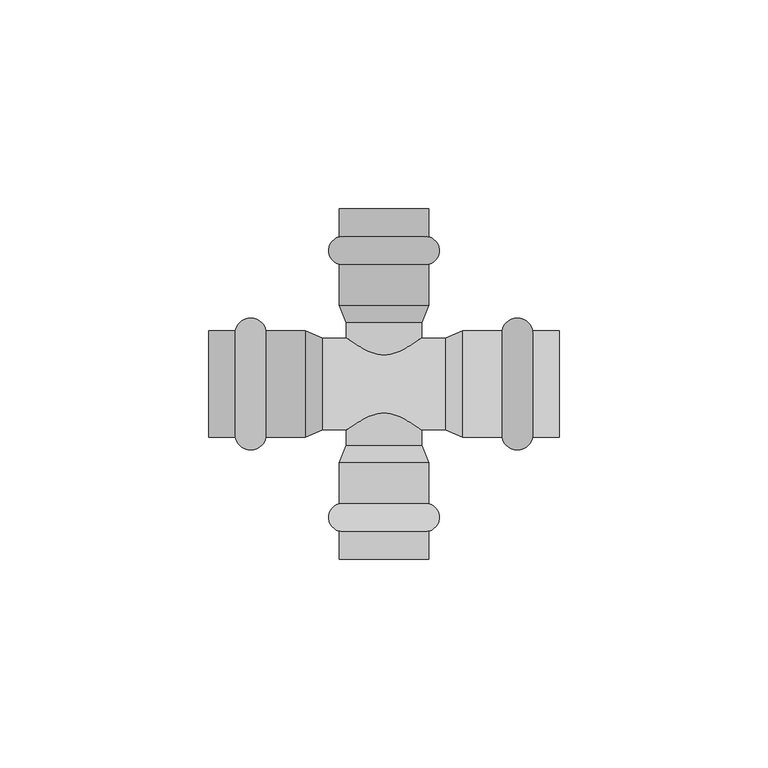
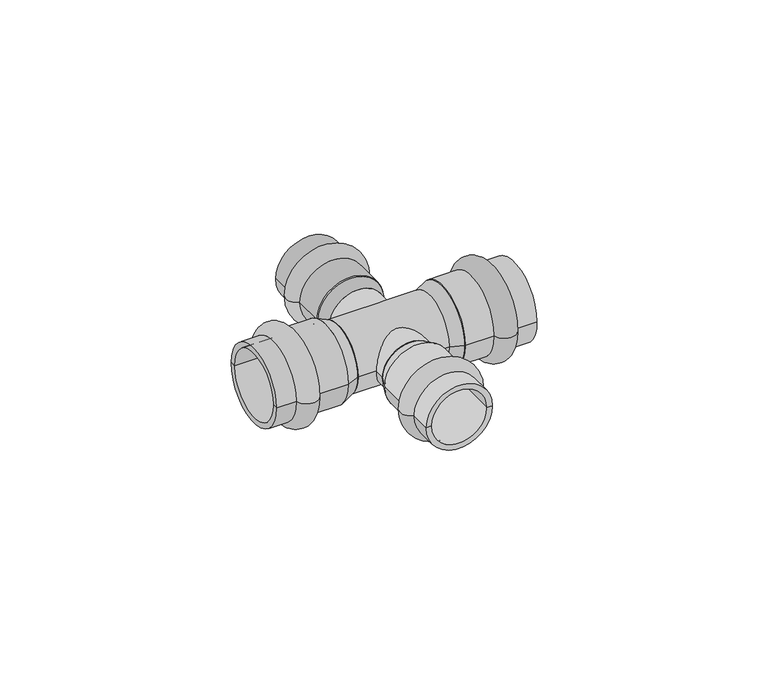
"""IFC4 building model written with IfcOpenShell, lengths in millimetres: pipe fitting geometry, VALTEC_VTi.941.I_Крестовина нержавеющая сталь : VTi.941.I."""

from ifc_helpers import new_model, si_unit, point, frame, origin, origin_2d, place, context, project, spatial, polyline, circle_curve, ellipse_curve, trimmed, segment, composite_curve, outline, extrude, source, transform, mapped, element, save
from ifc_brep_helpers import plane_surface, cylinder_surface, revolved_surface, advanced_brep


def pipe_fitting_897d8b49(model_context):
    return source(origin(), model_context, "Body", "SolidModel", [
        advanced_brep(
        [(10.75, -35.2287193, 0.0), (-10.75, -35.2287193, 0.0), (-10.75, -28.6712807, 0.0), (10.75, -28.6712807, 0.0), (10.75, -42.0, 0.0), (-10.75, -42.0, 0.0), (9.0, -42.0, 0.0), (-9.0, -42.0, 0.0), (9.0, -18.9, 0.0), (-9.0, -18.9, 0.0), (10.75, -18.9, 0.0), (-10.75, -18.9, 0.0)],
        [
            (0, 1, circle_curve(frame((0.0, -35.2287193, 0.0), z_axis=(0.0, 1.0, 0.0), x_axis=(-1.0, 0.0, 0.0)), 10.75)),
            (1, 2, circle_curve(frame((-9.85, -31.95, 0.0), z_axis=(0.0, 0.0, -1.0), x_axis=(0.0, 1.0, 0.0)), 3.4)),
            (2, 3, circle_curve(frame((0.0, -28.6712807, 0.0), z_axis=(0.0, -1.0, 0.0), x_axis=(-1.0, 0.0, 0.0)), 10.75)),
            (3, 0, circle_curve(frame((9.85, -31.95, 0.0), z_axis=(0.0, 0.0, -1.0), x_axis=(0.0, 1.0, 0.0)), 3.4)),
            (1, 0, circle_curve(frame((0.0, -35.2287193, 0.0), z_axis=(0.0, 1.0, 0.0), x_axis=(-1.0, 0.0, 0.0)), 10.75)),
            (3, 2, circle_curve(frame((0.0, -28.6712807, 0.0), z_axis=(0.0, -1.0, 0.0), x_axis=(-1.0, 0.0, 0.0)), 10.75)),
            (4, 5, circle_curve(frame((0.0, -42.0, 0.0), z_axis=(0.0, 1.0, 0.0), x_axis=(-1.0, 0.0, 0.0)), 10.75)),
            (5, 1),
            (0, 4),
            (5, 4, circle_curve(frame((0.0, -42.0, 0.0), z_axis=(0.0, 1.0, 0.0), x_axis=(-1.0, 0.0, 0.0)), 10.75)),
            (6, 7, circle_curve(frame((0.0, -42.0, 0.0), z_axis=(0.0, 1.0, 0.0), x_axis=(-1.0, 0.0, 0.0)), 9.0)),
            (7, 5),
            (4, 6),
            (7, 6, circle_curve(frame((0.0, -42.0, 0.0), z_axis=(0.0, 1.0, 0.0), x_axis=(-1.0, 0.0, 0.0)), 9.0)),
            (8, 9, circle_curve(frame((0.0, -18.9, 0.0), z_axis=(0.0, 1.0, 0.0), x_axis=(-1.0, 0.0, 0.0)), 9.0)),
            (9, 7),
            (6, 8),
            (9, 8, circle_curve(frame((0.0, -18.9, 0.0), z_axis=(0.0, 1.0, 0.0), x_axis=(-1.0, 0.0, 0.0)), 9.0)),
            (10, 11, circle_curve(frame((0.0, -18.9, 0.0), z_axis=(0.0, 1.0, 0.0), x_axis=(-1.0, 0.0, 0.0)), 10.75)),
            (11, 9),
            (8, 10),
            (11, 10, circle_curve(frame((0.0, -18.9, 0.0), z_axis=(0.0, 1.0, 0.0), x_axis=(-1.0, 0.0, 0.0)), 10.75)),
            (2, 11),
            (10, 3),
        ],
        [
            revolved_surface(trimmed(ellipse_curve(frame((-9.85, -31.95, 0.0), z_axis=(0.0, 0.0, 1.0), x_axis=(0.0, 1.0, 0.0)), 3.4, 3.4), [point((-10.75, -28.6712807, 0.0))], [point((-10.75, -35.2287193, 0.0))], True, "CARTESIAN"), (0.0, -45.5364426, 0.0), (0.0, -1.0, 0.0)),
            cylinder_surface(frame((0.0, -45.5364426, 0.0), z_axis=(0.0, -1.0, 0.0), x_axis=(-1.0, 0.0, 0.0)), 10.75),
            plane_surface(frame((0.0, -42.0, 0.0), z_axis=(0.0, -1.0, 0.0), x_axis=(-1.0, 0.0, 0.0))),
            revolved_surface(polyline([(-9.0, -42.0, 0.0), (-9.0, -18.9, 0.0)]), (0.0, -45.5364426, 0.0), (0.0, -1.0, 0.0)),
            plane_surface(frame((0.0, -18.9, 0.0), z_axis=(0.0, 1.0, 0.0), x_axis=(-1.0, 0.0, 0.0))),
        ],
        [
            (0, [[1, 2, 3, 4]]),
            (0, [[5, -4, 6, -2]]),
            (1, [[7, 8, -1, 9]]),
            (1, [[10, -9, -5, -8]]),
            (2, [[11, 12, -7, 13]]),
            (2, [[14, -13, -10, -12]]),
            (3, [[15, 16, -11, 17]]),
            (3, [[18, -17, -14, -16]]),
            (4, [[19, 20, -15, 21]]),
            (4, [[22, -21, -18, -20]]),
            (1, [[-3, 23, -19, 24]]),
            (1, [[-6, -24, -22, -23]]),
        ],
    ),
        advanced_brep(
        [(35.6242346, 12.8, 0.0), (35.6242346, -12.8, 0.0), (28.2757654, -12.8, 0.0), (28.2757654, 12.8, 0.0), (42.0, 12.8, 0.0), (42.0, -12.8, 0.0), (42.0, 11.0, 0.0), (42.0, -11.0, 0.0), (18.9, 11.0, 0.0), (18.9, -11.0, 0.0), (18.9, 12.8, 0.0), (18.9, -12.8, 0.0)],
        [
            (0, 1, circle_curve(frame((35.6242346, 0.0, 0.0), z_axis=(-1.0, 0.0, 0.0), x_axis=(0.0, -1.0, 0.0)), 12.8)),
            (1, 2, circle_curve(frame((31.95, -12.05, 0.0), z_axis=(0.0, 0.0, -1.0), x_axis=(-1.0, 0.0, 0.0)), 3.75)),
            (2, 3, circle_curve(frame((28.2757654, 0.0, 0.0), z_axis=(1.0, 0.0, 0.0), x_axis=(0.0, -1.0, 0.0)), 12.8)),
            (3, 0, circle_curve(frame((31.95, 12.05, 0.0), z_axis=(0.0, 0.0, -1.0), x_axis=(-1.0, 0.0, 0.0)), 3.75)),
            (1, 0, circle_curve(frame((35.6242346, 0.0, 0.0), z_axis=(-1.0, 0.0, 0.0), x_axis=(0.0, -1.0, 0.0)), 12.8)),
            (3, 2, circle_curve(frame((28.2757654, 0.0, 0.0), z_axis=(1.0, 0.0, 0.0), x_axis=(0.0, -1.0, 0.0)), 12.8)),
            (4, 5, circle_curve(frame((42.0, 0.0, 0.0), z_axis=(-1.0, 0.0, 0.0), x_axis=(0.0, -1.0, 0.0)), 12.8)),
            (5, 1),
            (0, 4),
            (5, 4, circle_curve(frame((42.0, 0.0, 0.0), z_axis=(-1.0, 0.0, 0.0), x_axis=(0.0, -1.0, 0.0)), 12.8)),
            (6, 7, circle_curve(frame((42.0, 0.0, 0.0), z_axis=(-1.0, 0.0, 0.0), x_axis=(0.0, -1.0, 0.0)), 11.0)),
            (7, 5),
            (4, 6),
            (7, 6, circle_curve(frame((42.0, 0.0, 0.0), z_axis=(-1.0, 0.0, 0.0), x_axis=(0.0, -1.0, 0.0)), 11.0)),
            (8, 9, circle_curve(frame((18.9, 0.0, 0.0), z_axis=(-1.0, 0.0, 0.0), x_axis=(0.0, -1.0, 0.0)), 11.0)),
            (9, 7),
            (6, 8),
            (9, 8, circle_curve(frame((18.9, 0.0, 0.0), z_axis=(-1.0, 0.0, 0.0), x_axis=(0.0, -1.0, 0.0)), 11.0)),
            (10, 11, circle_curve(frame((18.9, 0.0, 0.0), z_axis=(-1.0, 0.0, 0.0), x_axis=(0.0, -1.0, 0.0)), 12.8)),
            (11, 9),
            (8, 10),
            (11, 10, circle_curve(frame((18.9, 0.0, 0.0), z_axis=(-1.0, 0.0, 0.0), x_axis=(0.0, -1.0, 0.0)), 12.8)),
            (2, 11),
            (10, 3),
        ],
        [
            revolved_surface(trimmed(ellipse_curve(frame((31.95, -12.05, 0.0), z_axis=(0.0, 0.0, 1.0), x_axis=(-1.0, 0.0, 0.0)), 3.75, 3.75), [point((28.2757654, -12.8, 0.0))], [point((35.6242346, -12.8, 0.0))], True, "CARTESIAN"), (45.5364426, 0.0, 0.0), (1.0, 0.0, 0.0)),
            cylinder_surface(frame((45.5364426, 0.0, 0.0), z_axis=(1.0, 0.0, 0.0), x_axis=(0.0, -1.0, 0.0)), 12.8),
            plane_surface(frame((42.0, 0.0, 0.0), z_axis=(1.0, 0.0, 0.0), x_axis=(0.0, -1.0, 0.0))),
            revolved_surface(polyline([(42.0, -11.0, 0.0), (18.9, -11.0, 0.0)]), (45.5364426, 0.0, 0.0), (1.0, 0.0, 0.0)),
            plane_surface(frame((18.9, 0.0, 0.0), z_axis=(-1.0, 0.0, 0.0), x_axis=(0.0, -1.0, 0.0))),
        ],
        [
            (0, [[1, 2, 3, 4]]),
            (0, [[5, -4, 6, -2]]),
            (1, [[7, 8, -1, 9]]),
            (1, [[10, -9, -5, -8]]),
            (2, [[11, 12, -7, 13]]),
            (2, [[14, -13, -10, -12]]),
            (3, [[15, 16, -11, 17]]),
            (3, [[18, -17, -14, -16]]),
            (4, [[19, 20, -15, 21]]),
            (4, [[22, -21, -18, -20]]),
            (1, [[-3, 23, -19, 24]]),
            (1, [[-6, -24, -22, -23]]),
        ],
    ),
        advanced_brep(
        [(-35.6242346, -12.8, 0.0), (-35.6242346, 12.8, 0.0), (-28.2757654, 12.8, 0.0), (-28.2757654, -12.8, 0.0), (-42.0, -12.8, 0.0), (-42.0, 12.8, 0.0), (-42.0, -11.0, 0.0), (-42.0, 11.0, 0.0), (-18.9, -11.0, 0.0), (-18.9, 11.0, 0.0), (-18.9, -12.8, 0.0), (-18.9, 12.8, 0.0)],
        [
            (0, 1, circle_curve(frame((-35.6242346, 0.0, 0.0), z_axis=(1.0, 0.0, 0.0), x_axis=(0.0, 1.0, 0.0)), 12.8)),
            (1, 2, circle_curve(frame((-31.95, 12.05, 0.0), z_axis=(0.0, 0.0, -1.0), x_axis=(1.0, 0.0, 0.0)), 3.75)),
            (2, 3, circle_curve(frame((-28.2757654, 0.0, 0.0), z_axis=(-1.0, 0.0, 0.0), x_axis=(0.0, 1.0, 0.0)), 12.8)),
            (3, 0, circle_curve(frame((-31.95, -12.05, 0.0), z_axis=(0.0, 0.0, -1.0), x_axis=(1.0, 0.0, 0.0)), 3.75)),
            (1, 0, circle_curve(frame((-35.6242346, 0.0, 0.0), z_axis=(1.0, 0.0, 0.0), x_axis=(0.0, 1.0, 0.0)), 12.8)),
            (3, 2, circle_curve(frame((-28.2757654, 0.0, 0.0), z_axis=(-1.0, 0.0, 0.0), x_axis=(0.0, 1.0, 0.0)), 12.8)),
            (4, 5, circle_curve(frame((-42.0, 0.0, 0.0), z_axis=(1.0, 0.0, 0.0), x_axis=(0.0, 1.0, 0.0)), 12.8)),
            (5, 1),
            (0, 4),
            (5, 4, circle_curve(frame((-42.0, 0.0, 0.0), z_axis=(1.0, 0.0, 0.0), x_axis=(0.0, 1.0, 0.0)), 12.8)),
            (6, 7, circle_curve(frame((-42.0, 0.0, 0.0), z_axis=(1.0, 0.0, 0.0), x_axis=(0.0, 1.0, 0.0)), 11.0)),
            (7, 5),
            (4, 6),
            (7, 6, circle_curve(frame((-42.0, 0.0, 0.0), z_axis=(1.0, 0.0, 0.0), x_axis=(0.0, 1.0, 0.0)), 11.0)),
            (8, 9, circle_curve(frame((-18.9, 0.0, 0.0), z_axis=(1.0, 0.0, 0.0), x_axis=(0.0, 1.0, 0.0)), 11.0)),
            (9, 7),
            (6, 8),
            (9, 8, circle_curve(frame((-18.9, 0.0, 0.0), z_axis=(1.0, 0.0, 0.0), x_axis=(0.0, 1.0, 0.0)), 11.0)),
            (10, 11, circle_curve(frame((-18.9, 0.0, 0.0), z_axis=(1.0, 0.0, 0.0), x_axis=(0.0, 1.0, 0.0)), 12.8)),
            (11, 9),
            (8, 10),
            (11, 10, circle_curve(frame((-18.9, 0.0, 0.0), z_axis=(1.0, 0.0, 0.0), x_axis=(0.0, 1.0, 0.0)), 12.8)),
            (2, 11),
            (10, 3),
        ],
        [
            revolved_surface(trimmed(ellipse_curve(frame((-31.95, 12.05, 0.0), z_axis=(0.0, 0.0, 1.0), x_axis=(1.0, 0.0, 0.0)), 3.75, 3.75), [point((-28.2757654, 12.8, 0.0))], [point((-35.6242346, 12.8, 0.0))], True, "CARTESIAN"), (-45.5364426, 0.0, 0.0), (-1.0, 0.0, 0.0)),
            cylinder_surface(frame((-45.5364426, 0.0, 0.0), z_axis=(-1.0, 0.0, 0.0), x_axis=(0.0, 1.0, 0.0)), 12.8),
            plane_surface(frame((-42.0, 0.0, 0.0), z_axis=(-1.0, 0.0, 0.0), x_axis=(0.0, 1.0, 0.0))),
            revolved_surface(polyline([(-42.0, 11.0, 0.0), (-18.9, 11.0, 0.0)]), (-45.5364426, 0.0, 0.0), (-1.0, 0.0, 0.0)),
            plane_surface(frame((-18.9, 0.0, 0.0), z_axis=(1.0, 0.0, 0.0), x_axis=(0.0, 1.0, 0.0))),
        ],
        [
            (0, [[1, 2, 3, 4]]),
            (0, [[5, -4, 6, -2]]),
            (1, [[7, 8, -1, 9]]),
            (1, [[10, -9, -5, -8]]),
            (2, [[11, 12, -7, 13]]),
            (2, [[14, -13, -10, -12]]),
            (3, [[15, 16, -11, 17]]),
            (3, [[18, -17, -14, -16]]),
            (4, [[19, 20, -15, 21]]),
            (4, [[22, -21, -18, -20]]),
            (1, [[-3, 23, -19, 24]]),
            (1, [[-6, -24, -22, -23]]),
        ],
    ),
        advanced_brep(
        [(-10.75, 35.2287193, 0.0), (10.75, 35.2287193, 0.0), (10.75, 28.6712807, 0.0), (-10.75, 28.6712807, 0.0), (-10.75, 42.0, 0.0), (10.75, 42.0, 0.0), (-9.0, 42.0, 0.0), (9.0, 42.0, 0.0), (-9.0, 18.9, 0.0), (9.0, 18.9, 0.0), (-10.75, 18.9, 0.0), (10.75, 18.9, 0.0)],
        [
            (0, 1, circle_curve(frame((0.0, 35.2287193, 0.0), z_axis=(0.0, -1.0, 0.0), x_axis=(1.0, 0.0, 0.0)), 10.75)),
            (1, 2, circle_curve(frame((9.85, 31.95, 0.0), z_axis=(0.0, 0.0, -1.0), x_axis=(0.0, -1.0, 0.0)), 3.4)),
            (2, 3, circle_curve(frame((0.0, 28.6712807, 0.0), z_axis=(0.0, 1.0, 0.0), x_axis=(1.0, 0.0, 0.0)), 10.75)),
            (3, 0, circle_curve(frame((-9.85, 31.95, 0.0), z_axis=(0.0, 0.0, -1.0), x_axis=(0.0, -1.0, 0.0)), 3.4)),
            (1, 0, circle_curve(frame((0.0, 35.2287193, 0.0), z_axis=(0.0, -1.0, 0.0), x_axis=(1.0, 0.0, 0.0)), 10.75)),
            (3, 2, circle_curve(frame((0.0, 28.6712807, 0.0), z_axis=(0.0, 1.0, 0.0), x_axis=(1.0, 0.0, 0.0)), 10.75)),
            (4, 5, circle_curve(frame((0.0, 42.0, 0.0), z_axis=(0.0, -1.0, 0.0), x_axis=(1.0, 0.0, 0.0)), 10.75)),
            (5, 1),
            (0, 4),
            (5, 4, circle_curve(frame((0.0, 42.0, 0.0), z_axis=(0.0, -1.0, 0.0), x_axis=(1.0, 0.0, 0.0)), 10.75)),
            (6, 7, circle_curve(frame((0.0, 42.0, 0.0), z_axis=(0.0, -1.0, 0.0), x_axis=(1.0, 0.0, 0.0)), 9.0)),
            (7, 5),
            (4, 6),
            (7, 6, circle_curve(frame((0.0, 42.0, 0.0), z_axis=(0.0, -1.0, 0.0), x_axis=(1.0, 0.0, 0.0)), 9.0)),
            (8, 9, circle_curve(frame((0.0, 18.9, 0.0), z_axis=(0.0, -1.0, 0.0), x_axis=(1.0, 0.0, 0.0)), 9.0)),
            (9, 7),
            (6, 8),
            (9, 8, circle_curve(frame((0.0, 18.9, 0.0), z_axis=(0.0, -1.0, 0.0), x_axis=(1.0, 0.0, 0.0)), 9.0)),
            (10, 11, circle_curve(frame((0.0, 18.9, 0.0), z_axis=(0.0, -1.0, 0.0), x_axis=(1.0, 0.0, 0.0)), 10.75)),
            (11, 9),
            (8, 10),
            (11, 10, circle_curve(frame((0.0, 18.9, 0.0), z_axis=(0.0, -1.0, 0.0), x_axis=(1.0, 0.0, 0.0)), 10.75)),
            (2, 11),
            (10, 3),
        ],
        [
            revolved_surface(trimmed(ellipse_curve(frame((9.85, 31.95, 0.0), z_axis=(0.0, 0.0, 1.0), x_axis=(0.0, -1.0, 0.0)), 3.4, 3.4), [point((10.75, 28.6712807, 0.0))], [point((10.75, 35.2287193, 0.0))], True, "CARTESIAN"), (0.0, 45.5364426, 0.0), (0.0, 1.0, 0.0)),
            cylinder_surface(frame((0.0, 45.5364426, 0.0), z_axis=(0.0, 1.0, 0.0), x_axis=(1.0, 0.0, 0.0)), 10.75),
            plane_surface(frame((0.0, 42.0, 0.0), z_axis=(0.0, 1.0, 0.0), x_axis=(1.0, 0.0, 0.0))),
            revolved_surface(polyline([(9.0, 42.0, 0.0), (9.0, 18.9, 0.0)]), (0.0, 45.5364426, 0.0), (0.0, 1.0, 0.0)),
            plane_surface(frame((0.0, 18.9, 0.0), z_axis=(0.0, -1.0, 0.0), x_axis=(1.0, 0.0, 0.0))),
        ],
        [
            (0, [[1, 2, 3, 4]]),
            (0, [[5, -4, 6, -2]]),
            (1, [[7, 8, -1, 9]]),
            (1, [[10, -9, -5, -8]]),
            (2, [[11, 12, -7, 13]]),
            (2, [[14, -13, -10, -12]]),
            (3, [[15, 16, -11, 17]]),
            (3, [[18, -17, -14, -16]]),
            (4, [[19, 20, -15, 21]]),
            (4, [[22, -21, -18, -20]]),
            (1, [[-3, 23, -19, 24]]),
            (1, [[-6, -24, -22, -23]]),
        ],
    ),
        extrude(outline(composite_curve([segment(trimmed(circle_curve(origin_2d(), 11.0), [point((-11.0, 0.0))], [point((11.0, 0.0))], False, "CARTESIAN"), True, "CONTINUOUS"), segment(trimmed(circle_curve(origin_2d(), 11.0), [point((11.0, 0.0))], [point((-11.0, 0.0))], False, "CARTESIAN"), True, "CONTINUOUS")], self_intersect=False)), frame((-14.7, 0.0, 0.0), z_axis=(1.0, 0.0, 0.0), x_axis=(0.0, 1.0, 0.0)), (0.0, 0.0, 1.0), 29.4),
        extrude(outline(composite_curve([segment(trimmed(circle_curve(origin_2d(), 9.0), [point((0.0, -9.0))], [point((0.0, 9.0))], False, "CARTESIAN"), True, "CONTINUOUS"), segment(trimmed(circle_curve(origin_2d(), 9.0), [point((0.0, 9.0))], [point((0.0, -9.0))], False, "CARTESIAN"), True, "CONTINUOUS")], self_intersect=False)), frame((0.0, -14.7, 0.0), z_axis=(0.0, 1.0, 0.0), x_axis=(0.0, 0.0, 1.0)), (0.0, 0.0, 1.0), 29.4),
        advanced_brep(
        [(-18.9, -12.8, 0.0), (-18.9, 12.8, 0.0), (-14.7, -11.0, 0.0), (-14.7, 11.0, 0.0)],
        [
            (0, 1, circle_curve(frame((-18.9, 0.0, 0.0), z_axis=(-1.0, 0.0, 0.0), x_axis=(0.0, -1.0, 0.0)), 12.8)),
            (1, 0, circle_curve(frame((-18.9, 0.0, 0.0), z_axis=(-1.0, 0.0, 0.0), x_axis=(0.0, 1.0, 0.0)), 12.8)),
            (2, 3, circle_curve(frame((-14.7, 0.0, 0.0), z_axis=(1.0, 0.0, 0.0), x_axis=(0.0, 1.0, 0.0)), 11.0)),
            (3, 2, circle_curve(frame((-14.7, 0.0, 0.0), z_axis=(1.0, 0.0, 0.0), x_axis=(0.0, -1.0, 0.0)), 11.0)),
            (2, 0),
            (1, 3),
        ],
        [
            plane_surface(frame((-18.9, 0.0, 0.0), z_axis=(-1.0, 0.0, 0.0), x_axis=(0.0, 0.0, 1.0))),
            plane_surface(frame((-14.7, 0.0, 0.0), z_axis=(1.0, 0.0, 0.0), x_axis=(0.0, 0.0, 1.0))),
            revolved_surface(polyline([(-14.700000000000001, -11.000000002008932, 0.0), (-18.9, -12.8, 0.0)]), (10.9666667, 0.0, 0.0), (-1.0, 0.0, 0.0)),
            revolved_surface(polyline([(-14.700000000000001, 11.000000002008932, 0.0), (-18.9, 12.8, 0.0)]), (10.9666667, 0.0, 0.0), (-1.0, 0.0, 0.0)),
        ],
        [
            (0, [[1, 2]]),
            (1, [[3, 4]]),
            (2, [[-3, 5, -2, 6]]),
            (3, [[-4, -6, -1, -5]]),
        ],
    ),
        advanced_brep(
        [(18.9, -12.8, 0.0), (18.9, 12.8, 0.0), (14.7, -11.0, 0.0), (14.7, 11.0, 0.0)],
        [
            (0, 1, circle_curve(frame((18.9, 0.0, 0.0), z_axis=(1.0, 0.0, 0.0), x_axis=(0.0, -1.0, 0.0)), 12.8)),
            (1, 0, circle_curve(frame((18.9, 0.0, 0.0), z_axis=(1.0, 0.0, 0.0), x_axis=(0.0, 1.0, 0.0)), 12.8)),
            (2, 3, circle_curve(frame((14.7, 0.0, 0.0), z_axis=(-1.0, 0.0, 0.0), x_axis=(0.0, 1.0, 0.0)), 11.0)),
            (3, 2, circle_curve(frame((14.7, 0.0, 0.0), z_axis=(-1.0, 0.0, 0.0), x_axis=(0.0, -1.0, 0.0)), 11.0)),
            (3, 1),
            (0, 2),
        ],
        [
            plane_surface(frame((18.9, 0.0, 0.0), z_axis=(1.0, 0.0, 0.0), x_axis=(0.0, 0.0, -1.0))),
            plane_surface(frame((14.7, 0.0, 0.0), z_axis=(-1.0, 0.0, 0.0), x_axis=(0.0, 0.0, -1.0))),
            revolved_surface(polyline([(14.700000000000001, 11.000000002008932, 0.0), (18.9, 12.8, 0.0)]), (-10.9666667, 0.0, 0.0), (1.0, 0.0, 0.0)),
            revolved_surface(polyline([(14.700000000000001, -11.000000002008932, 0.0), (18.9, -12.8, 0.0)]), (-10.9666667, 0.0, 0.0), (1.0, 0.0, 0.0)),
        ],
        [
            (0, [[1, 2]]),
            (1, [[3, 4]]),
            (2, [[-4, 5, -1, 6]]),
            (3, [[-3, -6, -2, -5]]),
        ],
    ),
        advanced_brep(
        [(-10.75, -18.9, 0.0), (10.75, -18.9, 0.0), (-9.0, -14.7, 0.0), (9.0, -14.7, 0.0)],
        [
            (0, 1, circle_curve(frame((0.0, -18.9, 0.0), z_axis=(0.0, -1.0, 0.0), x_axis=(-1.0, 0.0, 0.0)), 10.75)),
            (1, 0, circle_curve(frame((0.0, -18.9, 0.0), z_axis=(0.0, -1.0, 0.0), x_axis=(1.0, 0.0, 0.0)), 10.75)),
            (2, 3, circle_curve(frame((0.0, -14.7, 0.0), z_axis=(0.0, 1.0, 0.0), x_axis=(1.0, 0.0, 0.0)), 9.0)),
            (3, 2, circle_curve(frame((0.0, -14.7, 0.0), z_axis=(0.0, 1.0, 0.0), x_axis=(-1.0, 0.0, 0.0)), 9.0)),
            (3, 1),
            (0, 2),
        ],
        [
            plane_surface(frame((0.0, -18.9, 0.0), z_axis=(0.0, -1.0, 0.0), x_axis=(0.0, 0.0, 1.0))),
            plane_surface(frame((0.0, -14.7, 0.0), z_axis=(0.0, 1.0, 0.0), x_axis=(0.0, 0.0, 1.0))),
            revolved_surface(polyline([(9.000000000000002, -14.700000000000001, 0.0), (10.75, -18.9, 0.0)]), (0.0, 6.9, 0.0), (0.0, -1.0, 0.0)),
            revolved_surface(polyline([(-9.000000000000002, -14.700000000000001, 0.0), (-10.75, -18.9, 0.0)]), (0.0, 6.9, 0.0), (0.0, -1.0, 0.0)),
        ],
        [
            (0, [[1, 2]]),
            (1, [[3, 4]]),
            (2, [[-4, 5, -1, 6]]),
            (3, [[-3, -6, -2, -5]]),
        ],
    ),
        advanced_brep(
        [(-10.75, 18.9, 0.0), (10.75, 18.9, 0.0), (-9.0, 14.7, 0.0), (9.0, 14.7, 0.0)],
        [
            (0, 1, circle_curve(frame((0.0, 18.9, 0.0), z_axis=(0.0, 1.0, 0.0), x_axis=(-1.0, 0.0, 0.0)), 10.75)),
            (1, 0, circle_curve(frame((0.0, 18.9, 0.0), z_axis=(0.0, 1.0, 0.0), x_axis=(1.0, 0.0, 0.0)), 10.75)),
            (2, 3, circle_curve(frame((0.0, 14.7, 0.0), z_axis=(0.0, -1.0, 0.0), x_axis=(1.0, 0.0, 0.0)), 9.0)),
            (3, 2, circle_curve(frame((0.0, 14.7, 0.0), z_axis=(0.0, -1.0, 0.0), x_axis=(-1.0, 0.0, 0.0)), 9.0)),
            (2, 0),
            (1, 3),
        ],
        [
            plane_surface(frame((0.0, 18.9, 0.0), z_axis=(0.0, 1.0, 0.0), x_axis=(0.0, 0.0, -1.0))),
            plane_surface(frame((0.0, 14.7, 0.0), z_axis=(0.0, -1.0, 0.0), x_axis=(0.0, 0.0, -1.0))),
            revolved_surface(polyline([(-9.000000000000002, 14.700000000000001, 0.0), (-10.75, 18.9, 0.0)]), (0.0, -6.9, 0.0), (0.0, 1.0, 0.0)),
            revolved_surface(polyline([(9.000000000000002, 14.700000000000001, 0.0), (10.75, 18.9, 0.0)]), (0.0, -6.9, 0.0), (0.0, 1.0, 0.0)),
        ],
        [
            (0, [[1, 2]]),
            (1, [[3, 4]]),
            (2, [[-3, 5, -2, 6]]),
            (3, [[-4, -6, -1, -5]]),
        ],
    ),
    ])


if __name__ == "__main__":
    model = new_model("IFC4")
    model_context = context("Model", 3, world=origin())
    ifc_project = project(units=[si_unit("LENGTHUNIT", "METRE", prefix="MILLI")], contexts=[model_context])
    site = spatial("IfcSite", under=ifc_project)
    building = spatial("IfcBuilding", under=site)
    placement = place(None, origin())
    pipe_fitting_shape = pipe_fitting_897d8b49(model_context)
    element("IfcPipeFitting", 1, ObjectType="VALTEC_VTi.941.I_Крестовина нержавеющая сталь : VTi.941.I", at=placement, inside=building, context=model_context, shape_type="MappedRepresentation", body=[
        mapped(pipe_fitting_shape, transform((0.0, 0.0, 0.0), x_axis=(1.0, 0.0, 0.0), y_axis=(0.0, 1.0, 0.0), z_axis=(0.0, 0.0, 1.0))),
    ])
    save(model, "model.ifc")
